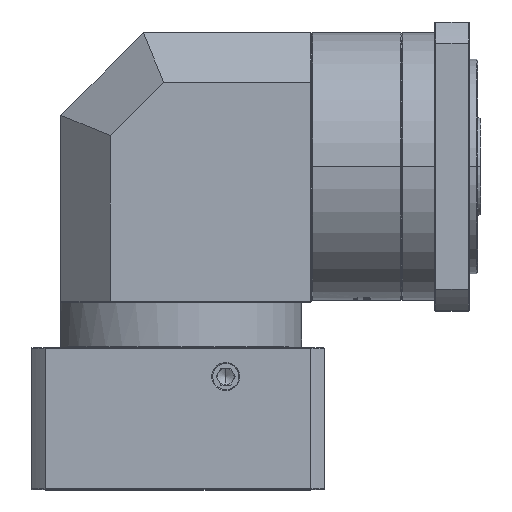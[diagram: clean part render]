
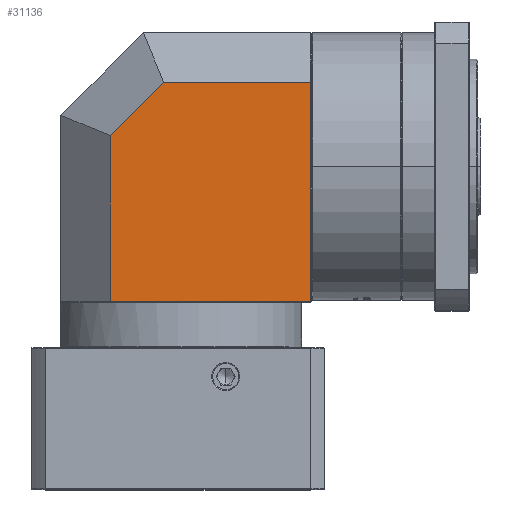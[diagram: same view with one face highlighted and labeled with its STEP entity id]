
A CAD part, top view. The second image highlights one B-rep face of the part: STEP entity #31136.
In plain terms, the highlighted planar face has unit normal (0, 0, 1).
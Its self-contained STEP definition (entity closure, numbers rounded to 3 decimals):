
#968 = VECTOR ( 'NONE', #110432, 1000. ) ;
#1140 = VERTEX_POINT ( 'NONE', #37849 ) ;
#3375 = EDGE_CURVE ( 'NONE', #1140, #19649, #104576, .T. ) ;
#8890 = CARTESIAN_POINT ( 'NONE',  ( 9.846, -15.97, 356.206 ) ) ;
#9081 = CARTESIAN_POINT ( 'NONE',  ( 85.446, -15.97, 356.206 ) ) ;
#9863 = CARTESIAN_POINT ( 'NONE',  ( 9.846, -148.97, 356.206 ) ) ;
#11868 = EDGE_CURVE ( 'NONE', #46811, #1140, #141388, .T. ) ;
#19649 = VERTEX_POINT ( 'NONE', #121515 ) ;
#23470 = DIRECTION ( 'NONE',  ( 1., 0., 0. ) ) ;
#31136 = ADVANCED_FACE ( 'NONE', ( #85970 ), #126386, .T. ) ;
#31378 = ORIENTED_EDGE ( 'NONE', *, *, #3375, .T. ) ;
#32719 = EDGE_CURVE ( 'NONE', #34363, #47478, #80430, .T. ) ;
#34328 = VECTOR ( 'NONE', #138999, 1000. ) ;
#34363 = VERTEX_POINT ( 'NONE', #135310 ) ;
#34720 = CARTESIAN_POINT ( 'NONE',  ( 9.846, -67.72, 356.206 ) ) ;
#35248 = CARTESIAN_POINT ( 'NONE',  ( -3.828, -15.97, 356.206 ) ) ;
#35963 = LINE ( 'NONE', #138015, #34328 ) ;
#37727 = ORIENTED_EDGE ( 'NONE', *, *, #11868, .T. ) ;
#37849 = CARTESIAN_POINT ( 'NONE',  ( -3.828, -15.97, 356.206 ) ) ;
#43085 = DIRECTION ( 'NONE',  ( -1., 0., 0. ) ) ;
#43657 = ORIENTED_EDGE ( 'NONE', *, *, #57847, .T. ) ;
#46811 = VERTEX_POINT ( 'NONE', #9081 ) ;
#47478 = VERTEX_POINT ( 'NONE', #114291 ) ;
#57847 = EDGE_CURVE ( 'NONE', #34363, #46811, #35963, .T. ) ;
#80430 = LINE ( 'NONE', #9863, #143700 ) ;
#81782 = EDGE_CURVE ( 'NONE', #19649, #47478, #121335, .T. ) ;
#82851 = ORIENTED_EDGE ( 'NONE', *, *, #81782, .T. ) ;
#85205 = DIRECTION ( 'NONE',  ( 0., -1., 0. ) ) ;
#85970 = FACE_OUTER_BOUND ( 'NONE', #95015, .T. ) ;
#93591 = DIRECTION ( 'NONE',  ( -0.707, -0.707, 0. ) ) ;
#95015 = EDGE_LOOP ( 'NONE', ( #106871, #43657, #37727, #31378, #82851 ) ) ;
#97519 = VECTOR ( 'NONE', #93591, 1000. ) ;
#104576 = LINE ( 'NONE', #35248, #97519 ) ;
#106871 = ORIENTED_EDGE ( 'NONE', *, *, #32719, .F. ) ;
#107379 = CARTESIAN_POINT ( 'NONE',  ( -36.254, -67.72, 356.206 ) ) ;
#110432 = DIRECTION ( 'NONE',  ( -1., 0., 0. ) ) ;
#113225 = DIRECTION ( 'NONE',  ( 0., 0., 1. ) ) ;
#114291 = CARTESIAN_POINT ( 'NONE',  ( -36.254, -148.97, 356.206 ) ) ;
#118051 = AXIS2_PLACEMENT_3D ( 'NONE', #34720, #113225, #23470 ) ;
#121335 = LINE ( 'NONE', #107379, #131809 ) ;
#121515 = CARTESIAN_POINT ( 'NONE',  ( -36.254, -48.396, 356.206 ) ) ;
#126386 = PLANE ( 'NONE',  #118051 ) ;
#131809 = VECTOR ( 'NONE', #85205, 1000. ) ;
#135310 = CARTESIAN_POINT ( 'NONE',  ( 85.446, -148.97, 356.206 ) ) ;
#138015 = CARTESIAN_POINT ( 'NONE',  ( 85.446, -67.72, 356.206 ) ) ;
#138999 = DIRECTION ( 'NONE',  ( 0., 1., 0. ) ) ;
#141388 = LINE ( 'NONE', #8890, #968 ) ;
#143700 = VECTOR ( 'NONE', #43085, 1000. ) ;
